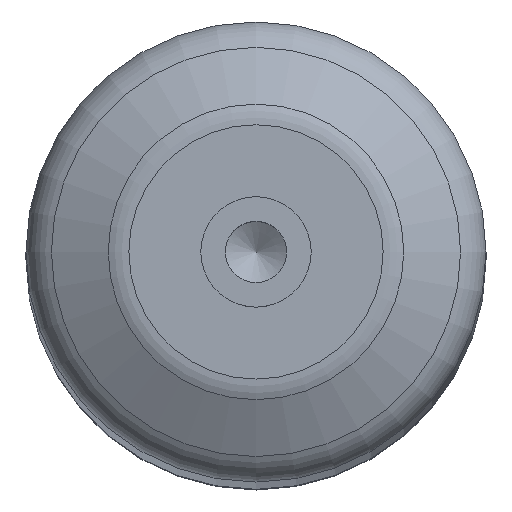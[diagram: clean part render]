
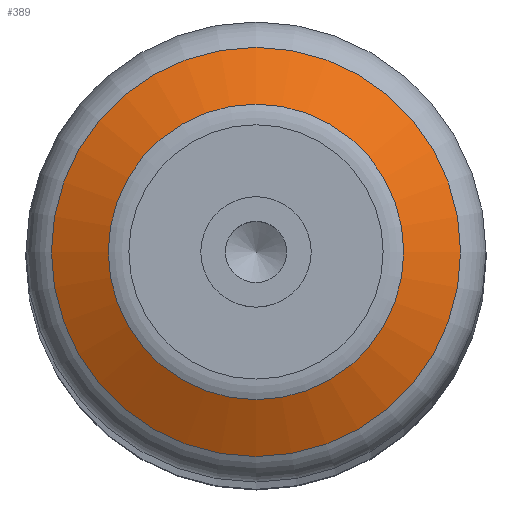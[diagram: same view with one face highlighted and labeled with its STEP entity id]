
A CAD part, top view. The second image highlights one B-rep face of the part: STEP entity #389.
In plain terms, the highlighted conical face has half-angle 63.435 degrees and reference radius 20 mm.
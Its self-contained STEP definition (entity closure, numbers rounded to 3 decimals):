
#23=CONICAL_SURFACE('',#469,20.,1.107);
#30=LINE('',#711,#41);
#41=VECTOR('',#591,20.);
#69=FACE_OUTER_BOUND('',#95,.T.);
#95=EDGE_LOOP('',(#302,#303,#304,#305,#306));
#137=CIRCLE('',#465,16.056);
#140=CIRCLE('',#468,16.056);
#141=CIRCLE('',#470,22.236);
#170=VERTEX_POINT('',#701);
#171=VERTEX_POINT('',#702);
#173=VERTEX_POINT('',#709);
#215=EDGE_CURVE('',#170,#171,#137,.T.);
#218=EDGE_CURVE('',#171,#170,#140,.T.);
#219=EDGE_CURVE('',#173,#173,#141,.T.);
#220=EDGE_CURVE('',#173,#170,#30,.T.);
#302=ORIENTED_EDGE('',*,*,#219,.F.);
#303=ORIENTED_EDGE('',*,*,#220,.T.);
#304=ORIENTED_EDGE('',*,*,#218,.F.);
#305=ORIENTED_EDGE('',*,*,#215,.F.);
#306=ORIENTED_EDGE('',*,*,#220,.F.);
#389=ADVANCED_FACE('',(#69),#23,.T.);
#465=AXIS2_PLACEMENT_3D('',#703,#579,#580);
#468=AXIS2_PLACEMENT_3D('',#707,#585,#586);
#469=AXIS2_PLACEMENT_3D('',#708,#587,#588);
#470=AXIS2_PLACEMENT_3D('',#710,#589,#590);
#579=DIRECTION('center_axis',(0.,0.,1.));
#580=DIRECTION('ref_axis',(1.,0.,0.));
#585=DIRECTION('center_axis',(0.,0.,1.));
#586=DIRECTION('ref_axis',(1.,0.,0.));
#587=DIRECTION('center_axis',(0.,0.,-1.));
#588=DIRECTION('ref_axis',(1.,0.,0.));
#589=DIRECTION('center_axis',(0.,0.,-1.));
#590=DIRECTION('ref_axis',(1.,0.,0.));
#591=DIRECTION('',(0.894,0.,0.447));
#701=CARTESIAN_POINT('',(-16.056,0.,253.972));
#702=CARTESIAN_POINT('',(16.056,0.,253.972));
#703=CARTESIAN_POINT('Origin',(0.,0.,253.972));
#707=CARTESIAN_POINT('Origin',(0.,0.,253.972));
#708=CARTESIAN_POINT('Origin',(0.,0.,252.));
#709=CARTESIAN_POINT('',(-22.236,0.,250.882));
#710=CARTESIAN_POINT('Origin',(0.,0.,250.882));
#711=CARTESIAN_POINT('',(-20.,0.,252.));
